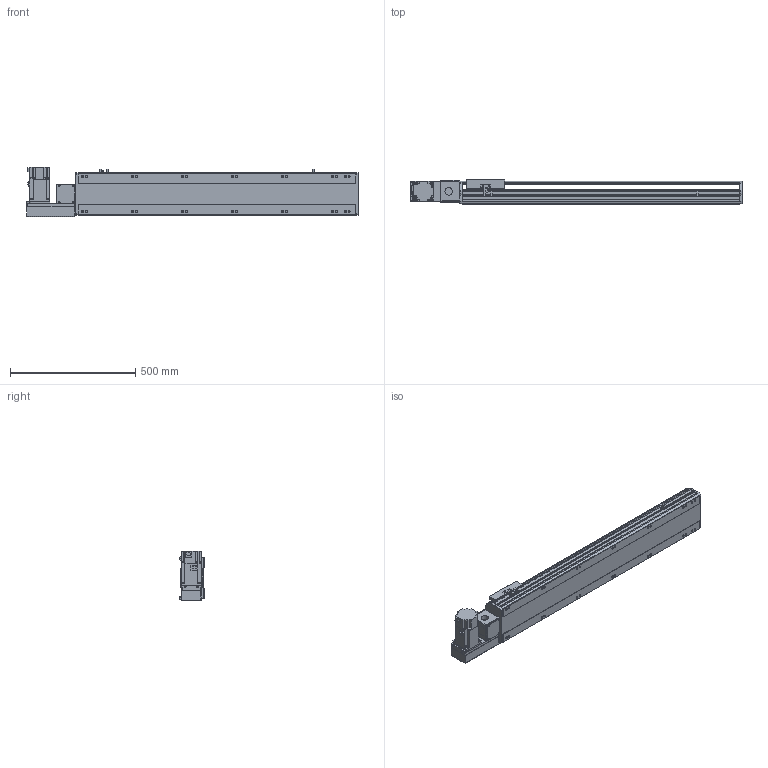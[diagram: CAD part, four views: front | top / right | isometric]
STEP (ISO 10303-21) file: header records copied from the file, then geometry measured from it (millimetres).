
FILE_DESCRIPTION( ( 'STEP AP214' ), '1' );
FILE_NAME( 'x:/temp/worker_3/temp/exporttempdir_5796_100_8QtUT/format_0/PBS170-P40-S850-L-T75-C1-N(0).stp', '2022-06-07T06:54:44', ( 'License CC BY-ND 4.0' ), ( 'CADENAS' ), ' ', 'PARTsolutions', ' ' );
FILE_SCHEMA( ( 'AUTOMOTIVE_DESIGN { 1 0 10303 214 1 1 1 1 }' ) );
Length unit declared in the file: millimetre
Products named in the file (7): PBS170-P40-S850-L-T75-C1-N(0); _PBS170-S850()_body; _PBS170T-L_motors; _T75-p1; _PBS170_sliser; _PBS170_plant; _PBS170_sensor
Assembly tree (8 placements, depth 2):
  PBS170-P40-S850-L-T75-C1-N(0)
    _PBS170-S850()_body
    _PBS170T-L_motors
    _T75-p1
    _PBS170_sliser
    _PBS170_plant
    _PBS170_sensor  x3
Bounding box: 1328 x 97 x 197.3 mm (x, y, z)
Volume: 9918887.6 mm3; surface area: 1312294.1 mm2
Topology: 8 solids, 8 shells, 1066 faces, 2835 edges, 1848 vertices
Faces by surface type: plane 681, cylinder 331, cone 44, sphere 8, torus 2
Full cylindrical faces by diameter (mm): 3.242 x4, 4 x2, 4.4 x4, 4.5 x6, 4.917 x4, 6 x9, 6.647 x22, 7 x2, 7.5 x4, 8 x8, 8.5 x14, 10 x4, 10.5 x14, 11 x2, 30 x2, 40 x1, 70 x1
Entity records: 39098 total; most frequent: CARTESIAN_POINT 6053, DIRECTION 5230, ORIENTED_EDGE 4968, EDGE_CURVE 2484, AXIS2_PLACEMENT_3D 1807, VERTEX_POINT 1706, LINE 1616, VECTOR 1616
